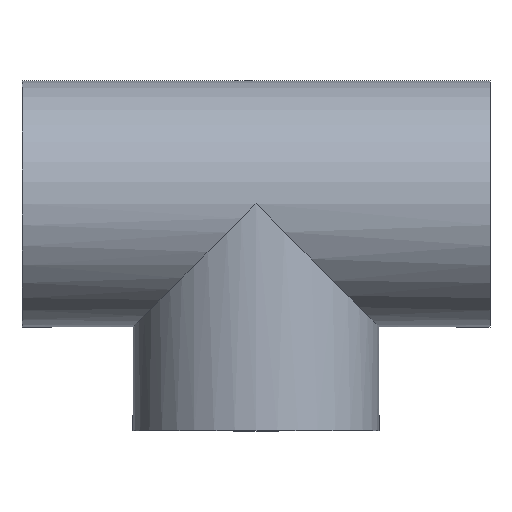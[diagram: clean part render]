
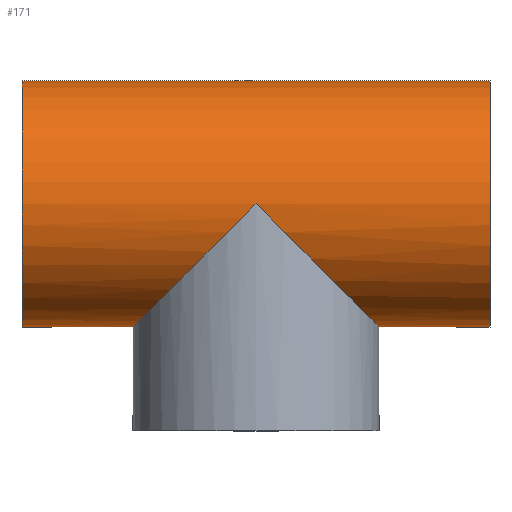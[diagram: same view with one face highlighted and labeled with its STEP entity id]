
A CAD part, top view. The second image highlights one B-rep face of the part: STEP entity #171.
In plain terms, the highlighted cylindrical face has radius 25.5 mm (diameter 51 mm), a full revolution.
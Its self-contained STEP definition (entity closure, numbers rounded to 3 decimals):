
#17=ELLIPSE('',#199,36.062,25.5);
#18=ELLIPSE('',#200,36.062,25.5);
#32=FACE_BOUND('',#68,.T.);
#33=FACE_BOUND('',#69,.T.);
#47=FACE_OUTER_BOUND('',#67,.T.);
#67=EDGE_LOOP('',(#140));
#68=EDGE_LOOP('',(#141,#142));
#69=EDGE_LOOP('',(#143));
#90=CIRCLE('',#198,25.5);
#91=CIRCLE('',#201,25.5);
#104=VERTEX_POINT('',#299);
#105=VERTEX_POINT('',#301);
#106=VERTEX_POINT('',#302);
#107=VERTEX_POINT('',#305);
#120=EDGE_CURVE('',#104,#104,#90,.T.);
#121=EDGE_CURVE('',#105,#106,#17,.T.);
#122=EDGE_CURVE('',#106,#105,#18,.T.);
#123=EDGE_CURVE('',#107,#107,#91,.T.);
#140=ORIENTED_EDGE('',*,*,#120,.F.);
#141=ORIENTED_EDGE('',*,*,#121,.T.);
#142=ORIENTED_EDGE('',*,*,#122,.T.);
#143=ORIENTED_EDGE('',*,*,#123,.F.);
#161=CYLINDRICAL_SURFACE('',#197,25.5);
#171=ADVANCED_FACE('',(#47,#32,#33),#161,.T.);
#197=AXIS2_PLACEMENT_3D('',#298,#246,#247);
#198=AXIS2_PLACEMENT_3D('',#300,#248,#249);
#199=AXIS2_PLACEMENT_3D('',#303,#250,#251);
#200=AXIS2_PLACEMENT_3D('',#304,#252,#253);
#201=AXIS2_PLACEMENT_3D('',#306,#254,#255);
#246=DIRECTION('center_axis',(1.,0.,0.));
#247=DIRECTION('ref_axis',(0.,-1.,0.));
#248=DIRECTION('center_axis',(-1.,0.,0.));
#249=DIRECTION('ref_axis',(0.,-1.,0.));
#250=DIRECTION('center_axis',(-0.707,0.707,0.));
#251=DIRECTION('ref_axis',(-0.707,-0.707,0.));
#252=DIRECTION('center_axis',(0.707,0.707,0.));
#253=DIRECTION('ref_axis',(-0.707,0.707,0.));
#254=DIRECTION('center_axis',(1.,0.,0.));
#255=DIRECTION('ref_axis',(0.,-1.,0.));
#298=CARTESIAN_POINT('Origin',(0.,0.,0.));
#299=CARTESIAN_POINT('',(-48.5,25.5,0.));
#300=CARTESIAN_POINT('Origin',(-48.5,0.,0.));
#301=CARTESIAN_POINT('',(0.,0.,-25.5));
#302=CARTESIAN_POINT('',(0.,0.,25.5));
#303=CARTESIAN_POINT('Origin',(0.,0.,0.));
#304=CARTESIAN_POINT('Origin',(0.,0.,0.));
#305=CARTESIAN_POINT('',(48.5,25.5,0.));
#306=CARTESIAN_POINT('Origin',(48.5,0.,0.));
